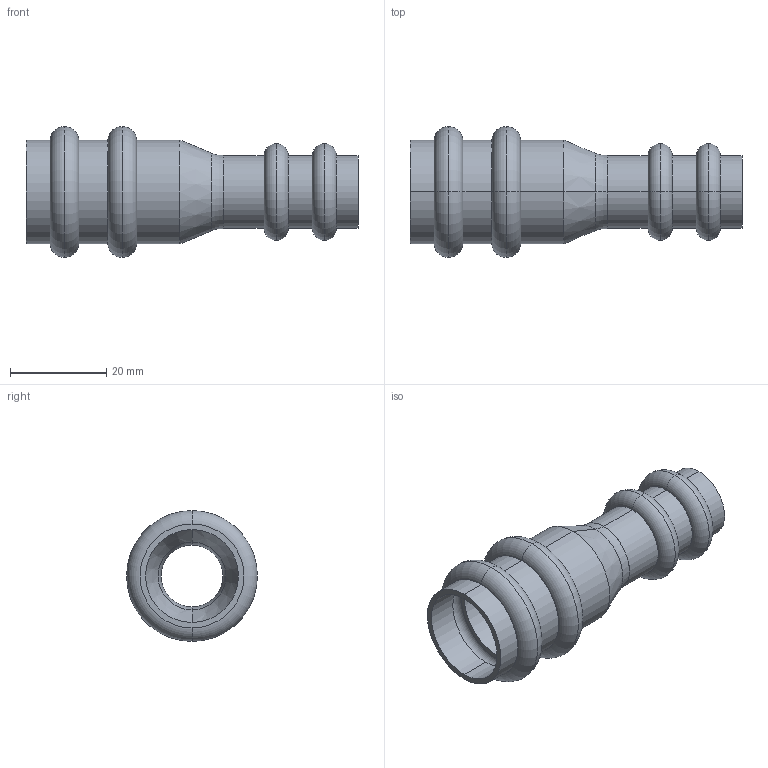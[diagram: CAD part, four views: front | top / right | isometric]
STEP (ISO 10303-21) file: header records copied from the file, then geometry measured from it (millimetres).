
FILE_DESCRIPTION(('starvars output'),'1');
FILE_NAME('cv20240422105310000011605.stp','10:53:10 2024/04/22',('Thomas Industrial Network Germany GmbH'),(' '),'Spatial InterOp 3D',' ',' ');
FILE_SCHEMA(('AUTOMOTIVE_DESIGN { 1 0 10303 214 3 1 1 }'));
Length unit declared in the file: millimetre
Products named in the file (1): 1
Bounding box: 69 x 27.2 x 27.2 mm (x, y, z)
Volume: 5776.1 mm3; surface area: 9869.3 mm2
Topology: 1 solids, 1 shells, 80 faces, 160 edges, 96 vertices
Faces by surface type: torus 36, cylinder 24, plane 16, cone 4
Entity records: 2788 total; most frequent: DIRECTION 454, CARTESIAN_POINT 337, ORIENTED_EDGE 320, AXIS2_PLACEMENT_3D 213, EDGE_CURVE 160, CIRCLE 132, EDGE_LOOP 96, VERTEX_POINT 96
